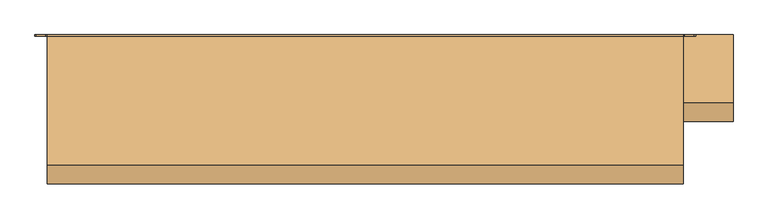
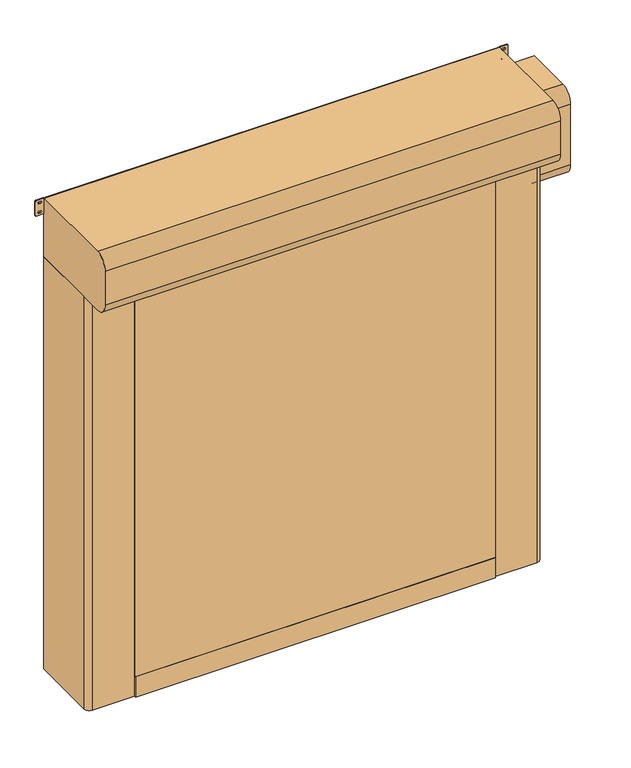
"""IFC4 building model written with IfcOpenShell, lengths in millimetres: door geometry, DO_WPB_Dynamicroll Frigo_Air_BMP : Dynamicroll Frigo2 Air."""

from ifc_helpers import new_model, si_unit, point, frame, frame_2d, origin, origin_with_axes, place, context, project, spatial, polyline, circle_curve, trimmed, segment, composite_curve, outline, extrude, source, transform, mapped, element, save


def door_aceed0af(model_context):
    return source(origin(), model_context, "Body", "SweptSolid", [
        extrude(outline(polyline([(-1012.0, -421.5), (1012.0, -421.5), (1012.0, -428.5), (-1012.0, -428.5), (-1012.0, -421.5)])), frame((0.0, 0.0, 120.0), z_axis=(0.0, 0.0, 1.0), x_axis=(1.0, 0.0, 0.0)), (0.0, 0.0, 1.0), 2505.0),
        extrude(outline(polyline([(-1012.0, -419.5), (1012.0, -419.5), (1012.0, -430.5), (-1012.0, -430.5), (-1012.0, -419.5)])), origin_with_axes(), (0.0, 0.0, 1.0), 120.0),
        extrude(outline(composite_curve([segment(trimmed(circle_curve(frame_2d((1583.3333333, 1171.0)), 6.0), [point((1589.3333333, 1171.0))], [point((1577.3333333, 1171.0))], False, "CARTESIAN"), True, "CONTINUOUS"), segment(polyline([(1577.3333333, 1171.0), (1577.3333333, 1189.0)]), True, "CONTINUOUS"), segment(trimmed(circle_curve(frame_2d((1583.3333333, 1189.0)), 6.0), [point((1577.3333333, 1189.0))], [point((1589.3333333, 1189.0))], False, "CARTESIAN"), True, "CONTINUOUS"), segment(polyline([(1589.3333333, 1189.0), (1589.3333333, 1171.0)]), True, "CONTINUOUS")], self_intersect=False)), frame((0.0, -20.0, 0.0), z_axis=(0.0, 1.0, 0.0), x_axis=(0.0, 0.0, 1.0)), (0.0, 0.0, 1.0), 20.0),
        extrude(outline(composite_curve([segment(trimmed(circle_curve(frame_2d((866.6666667, 1171.0)), 6.0), [point((872.6666667, 1171.0))], [point((860.6666667, 1171.0))], False, "CARTESIAN"), True, "CONTINUOUS"), segment(polyline([(860.6666667, 1171.0), (860.6666667, 1189.0)]), True, "CONTINUOUS"), segment(trimmed(circle_curve(frame_2d((866.6666667, 1189.0)), 6.0), [point((860.6666667, 1189.0))], [point((872.6666667, 1189.0))], False, "CARTESIAN"), True, "CONTINUOUS"), segment(polyline([(872.6666667, 1189.0), (872.6666667, 1171.0)]), True, "CONTINUOUS")], self_intersect=False)), frame((0.0, -20.0, 0.0), z_axis=(0.0, 1.0, 0.0), x_axis=(0.0, 0.0, 1.0)), (0.0, 0.0, 1.0), 20.0),
        extrude(outline(composite_curve([segment(trimmed(circle_curve(frame_2d((2300.0, 1171.0)), 6.0), [point((2306.0, 1171.0))], [point((2294.0, 1171.0))], False, "CARTESIAN"), True, "CONTINUOUS"), segment(polyline([(2294.0, 1171.0), (2294.0, 1189.0)]), True, "CONTINUOUS"), segment(trimmed(circle_curve(frame_2d((2300.0, 1189.0)), 6.0), [point((2294.0, 1189.0))], [point((2306.0, 1189.0))], False, "CARTESIAN"), True, "CONTINUOUS"), segment(polyline([(2306.0, 1189.0), (2306.0, 1171.0)]), True, "CONTINUOUS")], self_intersect=False)), frame((0.0, -20.0, 0.0), z_axis=(0.0, 1.0, 0.0), x_axis=(0.0, 0.0, 1.0)), (0.0, 0.0, 1.0), 20.0),
        extrude(outline(composite_curve([segment(trimmed(circle_curve(frame_2d((150.0, 1171.0)), 6.0), [point((156.0, 1171.0))], [point((144.0, 1171.0))], False, "CARTESIAN"), True, "CONTINUOUS"), segment(polyline([(144.0, 1171.0), (144.0, 1189.0)]), True, "CONTINUOUS"), segment(trimmed(circle_curve(frame_2d((150.0, 1189.0)), 6.0), [point((144.0, 1189.0))], [point((156.0, 1189.0))], False, "CARTESIAN"), True, "CONTINUOUS"), segment(polyline([(156.0, 1189.0), (156.0, 1171.0)]), True, "CONTINUOUS")], self_intersect=False)), frame((0.0, -20.0, 0.0), z_axis=(0.0, 1.0, 0.0), x_axis=(0.0, 0.0, 1.0)), (0.0, 0.0, 1.0), 20.0),
        extrude(outline(composite_curve([segment(polyline([(1589.3333333, -1171.0), (1589.3333333, -1189.0)]), True, "CONTINUOUS"), segment(trimmed(circle_curve(frame_2d((1583.3333333, -1189.0)), 6.0), [point((1589.3333333, -1189.0))], [point((1577.3333333, -1189.0))], False, "CARTESIAN"), True, "CONTINUOUS"), segment(polyline([(1577.3333333, -1189.0), (1577.3333333, -1171.0)]), True, "CONTINUOUS"), segment(trimmed(circle_curve(frame_2d((1583.3333333, -1171.0)), 6.0), [point((1577.3333333, -1171.0))], [point((1589.3333333, -1171.0))], False, "CARTESIAN"), True, "CONTINUOUS")], self_intersect=False)), frame((0.0, -20.0, 0.0), z_axis=(0.0, 1.0, 0.0), x_axis=(0.0, 0.0, 1.0)), (0.0, 0.0, 1.0), 20.0),
        extrude(outline(composite_curve([segment(polyline([(872.6666667, -1171.0), (872.6666667, -1189.0)]), True, "CONTINUOUS"), segment(trimmed(circle_curve(frame_2d((866.6666667, -1189.0)), 6.0), [point((872.6666667, -1189.0))], [point((860.6666667, -1189.0))], False, "CARTESIAN"), True, "CONTINUOUS"), segment(polyline([(860.6666667, -1189.0), (860.6666667, -1171.0)]), True, "CONTINUOUS"), segment(trimmed(circle_curve(frame_2d((866.6666667, -1171.0)), 6.0), [point((860.6666667, -1171.0))], [point((872.6666667, -1171.0))], False, "CARTESIAN"), True, "CONTINUOUS")], self_intersect=False)), frame((0.0, -20.0, 0.0), z_axis=(0.0, 1.0, 0.0), x_axis=(0.0, 0.0, 1.0)), (0.0, 0.0, 1.0), 20.0),
        extrude(outline(composite_curve([segment(polyline([(2306.0, -1171.0), (2306.0, -1189.0)]), True, "CONTINUOUS"), segment(trimmed(circle_curve(frame_2d((2300.0, -1189.0)), 6.0), [point((2306.0, -1189.0))], [point((2294.0, -1189.0))], False, "CARTESIAN"), True, "CONTINUOUS"), segment(polyline([(2294.0, -1189.0), (2294.0, -1171.0)]), True, "CONTINUOUS"), segment(trimmed(circle_curve(frame_2d((2300.0, -1171.0)), 6.0), [point((2294.0, -1171.0))], [point((2306.0, -1171.0))], False, "CARTESIAN"), True, "CONTINUOUS")], self_intersect=False)), frame((0.0, -20.0, 0.0), z_axis=(0.0, 1.0, 0.0), x_axis=(0.0, 0.0, 1.0)), (0.0, 0.0, 1.0), 20.0),
        extrude(outline(composite_curve([segment(polyline([(156.0, -1171.0), (156.0, -1189.0)]), True, "CONTINUOUS"), segment(trimmed(circle_curve(frame_2d((150.0, -1189.0)), 6.0), [point((156.0, -1189.0))], [point((144.0, -1189.0))], False, "CARTESIAN"), True, "CONTINUOUS"), segment(polyline([(144.0, -1189.0), (144.0, -1171.0)]), True, "CONTINUOUS"), segment(trimmed(circle_curve(frame_2d((150.0, -1171.0)), 6.0), [point((144.0, -1171.0))], [point((156.0, -1171.0))], False, "CARTESIAN"), True, "CONTINUOUS")], self_intersect=False)), frame((0.0, -20.0, 0.0), z_axis=(0.0, 1.0, 0.0), x_axis=(0.0, 0.0, 1.0)), (0.0, 0.0, 1.0), 20.0),
        extrude(outline(polyline([(-1012.0, -221.5), (1012.0, -221.5), (1012.0, -228.5), (-1012.0, -228.5), (-1012.0, -221.5)])), frame((0.0, 0.0, 120.0), z_axis=(0.0, 0.0, 1.0), x_axis=(1.0, 0.0, 0.0)), (0.0, 0.0, 1.0), 2505.0),
        extrude(outline(polyline([(-1012.0, -219.5), (1012.0, -219.5), (1012.0, -230.5), (-1012.0, -230.5), (-1012.0, -219.5)])), origin_with_axes(), (0.0, 0.0, 1.0), 120.0),
        extrude(outline(composite_curve([segment(polyline([(-1280.0, 0.0), (-1015.0, 0.0), (-1015.0, -209.2857143), (-1035.0, -215.0), (-1000.0, -215.0), (-1000.0, -221.5), (-1020.0, -221.5), (-1020.0, -228.5), (-1000.0, -228.5), (-1000.0, -235.0), (-1035.0, -235.0), (-1035.0, -250.0), (-1005.0, -250.0), (-1005.0, -420.0), (-1250.0, -420.0)]), True, "CONTINUOUS"), segment(trimmed(circle_curve(frame_2d((-1250.0, -390.0)), 30.0), [point((-1250.0, -420.0))], [point((-1280.0, -390.0))], False, "CARTESIAN"), True, "CONTINUOUS"), segment(polyline([(-1280.0, -390.0), (-1280.0, 0.0)]), True, "CONTINUOUS")], self_intersect=False)), origin_with_axes(), (0.0, 0.0, 1.0), 2450.0),
        extrude(outline(composite_curve([segment(polyline([(1280.0, 0.0), (1280.0, -390.0)]), True, "CONTINUOUS"), segment(trimmed(circle_curve(frame_2d((1250.0, -390.0)), 30.0), [point((1280.0, -390.0))], [point((1250.0, -420.0))], False, "CARTESIAN"), True, "CONTINUOUS"), segment(polyline([(1250.0, -420.0), (1005.0, -420.0), (1005.0, -250.0), (1035.0, -250.0), (1035.0, -235.0), (1000.0, -235.0), (1000.0, -228.5), (1020.0, -228.5), (1020.0, -221.5), (1000.0, -221.5), (1000.0, -215.0), (1035.0, -215.0), (1015.0, -209.2857143), (1015.0, 0.0), (1280.0, 0.0)]), True, "CONTINUOUS")], self_intersect=False)), origin_with_axes(), (0.0, 0.0, 1.0), 2450.0),
        extrude(outline(composite_curve([segment(trimmed(circle_curve(frame_2d((-5.0, 2455.0)), 5.0), [point((0.0, 2455.0))], [point((-5.0, 2450.0))], False, "CARTESIAN"), True, "CONTINUOUS"), segment(polyline([(-5.0, 2450.0), (-525.0, 2450.0)]), True, "CONTINUOUS"), segment(trimmed(circle_curve(frame_2d((-525.0, 2525.0)), 75.0), [point((-525.0, 2450.0))], [point((-600.0, 2525.0))], False, "CARTESIAN"), True, "CONTINUOUS"), segment(polyline([(-600.0, 2525.0), (-600.0, 2725.0)]), True, "CONTINUOUS"), segment(trimmed(circle_curve(frame_2d((-525.0, 2725.0)), 75.0), [point((-600.0, 2725.0))], [point((-525.0, 2800.0))], False, "CARTESIAN"), True, "CONTINUOUS"), segment(polyline([(-525.0, 2800.0), (-5.0, 2800.0)]), True, "CONTINUOUS"), segment(trimmed(circle_curve(frame_2d((-5.0, 2795.0)), 5.0), [point((-5.0, 2800.0))], [point((0.0, 2795.0))], False, "CARTESIAN"), True, "CONTINUOUS"), segment(polyline([(0.0, 2795.0), (0.0, 2455.0)]), True, "CONTINUOUS")], self_intersect=False)), frame((-1280.0, 0.0, 0.0), z_axis=(1.0, 0.0, 0.0), x_axis=(0.0, 1.0, 0.0)), (0.0, 0.0, 1.0), 2560.0),
        extrude(outline(composite_curve([segment(trimmed(circle_curve(frame_2d((2713.75, 1285.75)), 5.75), [point((2713.75, 1280.0))], [point((2708.0, 1285.75))], False, "CARTESIAN"), True, "CONTINUOUS"), segment(polyline([(2708.0, 1285.75), (2708.0, 1323.25)]), True, "CONTINUOUS"), segment(trimmed(circle_curve(frame_2d((2713.75, 1323.25)), 5.75), [point((2708.0, 1323.25))], [point((2713.75, 1329.0))], False, "CARTESIAN"), True, "CONTINUOUS"), segment(polyline([(2713.75, 1329.0), (2794.25, 1329.0)]), True, "CONTINUOUS"), segment(trimmed(circle_curve(frame_2d((2794.25, 1323.25)), 5.75), [point((2794.25, 1329.0))], [point((2800.0, 1323.25))], False, "CARTESIAN"), True, "CONTINUOUS"), segment(polyline([(2800.0, 1323.25), (2800.0, 1285.75)]), True, "CONTINUOUS"), segment(trimmed(circle_curve(frame_2d((2794.25, 1285.75)), 5.75), [point((2800.0, 1285.75))], [point((2794.25, 1280.0))], False, "CARTESIAN"), True, "CONTINUOUS"), segment(polyline([(2794.25, 1280.0), (2713.75, 1280.0)]), True, "CONTINUOUS")], self_intersect=False), holes=[composite_curve([segment(trimmed(circle_curve(frame_2d((2781.5, 1308.75)), 5.75), [point((2787.25, 1308.75))], [point((2775.75, 1308.75))], True, "CARTESIAN"), True, "CONTINUOUS"), segment(polyline([(2775.75, 1308.75), (2775.75, 1300.25)]), True, "CONTINUOUS"), segment(trimmed(circle_curve(frame_2d((2781.5, 1300.25)), 5.75), [point((2775.75, 1300.25))], [point((2787.25, 1300.25))], True, "CARTESIAN"), True, "CONTINUOUS"), segment(polyline([(2787.25, 1300.25), (2787.25, 1308.75)]), True, "CONTINUOUS")], self_intersect=False), composite_curve([segment(trimmed(circle_curve(frame_2d((2726.5, 1308.75)), 5.75), [point((2732.25, 1308.75))], [point((2720.75, 1308.75))], True, "CARTESIAN"), True, "CONTINUOUS"), segment(polyline([(2720.75, 1308.75), (2720.75, 1300.25)]), True, "CONTINUOUS"), segment(trimmed(circle_curve(frame_2d((2726.5, 1300.25)), 5.75), [point((2720.75, 1300.25))], [point((2732.25, 1300.25))], True, "CARTESIAN"), True, "CONTINUOUS"), segment(polyline([(2732.25, 1300.25), (2732.25, 1308.75)]), True, "CONTINUOUS")], self_intersect=False)]), frame((0.0, -5.0, 0.0), z_axis=(0.0, 1.0, 0.0), x_axis=(0.0, 0.0, 1.0)), (0.0, 0.0, 1.0), 5.0),
        extrude(outline(composite_curve([segment(trimmed(circle_curve(frame_2d((2713.75, -1323.25)), 5.75), [point((2713.75, -1329.0))], [point((2708.0, -1323.25))], False, "CARTESIAN"), True, "CONTINUOUS"), segment(polyline([(2708.0, -1323.25), (2708.0, -1285.75)]), True, "CONTINUOUS"), segment(trimmed(circle_curve(frame_2d((2713.75, -1285.75)), 5.75), [point((2708.0, -1285.75))], [point((2713.75, -1280.0))], False, "CARTESIAN"), True, "CONTINUOUS"), segment(polyline([(2713.75, -1280.0), (2794.25, -1280.0)]), True, "CONTINUOUS"), segment(trimmed(circle_curve(frame_2d((2794.25, -1285.75)), 5.75), [point((2794.25, -1280.0))], [point((2800.0, -1285.75))], False, "CARTESIAN"), True, "CONTINUOUS"), segment(polyline([(2800.0, -1285.75), (2800.0, -1323.25)]), True, "CONTINUOUS"), segment(trimmed(circle_curve(frame_2d((2794.25, -1323.25)), 5.75), [point((2800.0, -1323.25))], [point((2794.25, -1329.0))], False, "CARTESIAN"), True, "CONTINUOUS"), segment(polyline([(2794.25, -1329.0), (2713.75, -1329.0)]), True, "CONTINUOUS")], self_intersect=False), holes=[composite_curve([segment(trimmed(circle_curve(frame_2d((2781.5, -1300.25)), 5.75), [point((2787.25, -1300.25))], [point((2775.75, -1300.25))], True, "CARTESIAN"), True, "CONTINUOUS"), segment(polyline([(2775.75, -1300.25), (2775.75, -1308.75)]), True, "CONTINUOUS"), segment(trimmed(circle_curve(frame_2d((2781.5, -1308.75)), 5.75), [point((2775.75, -1308.75))], [point((2787.25, -1308.75))], True, "CARTESIAN"), True, "CONTINUOUS"), segment(polyline([(2787.25, -1308.75), (2787.25, -1300.25)]), True, "CONTINUOUS")], self_intersect=False), composite_curve([segment(trimmed(circle_curve(frame_2d((2726.5, -1300.25)), 5.75), [point((2732.25, -1300.25))], [point((2720.75, -1300.25))], True, "CARTESIAN"), True, "CONTINUOUS"), segment(polyline([(2720.75, -1300.25), (2720.75, -1308.75)]), True, "CONTINUOUS"), segment(trimmed(circle_curve(frame_2d((2726.5, -1308.75)), 5.75), [point((2720.75, -1308.75))], [point((2732.25, -1308.75))], True, "CARTESIAN"), True, "CONTINUOUS"), segment(polyline([(2732.25, -1308.75), (2732.25, -1300.25)]), True, "CONTINUOUS")], self_intersect=False)]), frame((0.0, -5.0, 0.0), z_axis=(0.0, 1.0, 0.0), x_axis=(0.0, 0.0, 1.0)), (0.0, 0.0, 1.0), 5.0),
        extrude(outline(composite_curve([segment(polyline([(0.0, 2675.0), (0.0, 2165.0), (-275.0, 2165.0)]), True, "CONTINUOUS"), segment(trimmed(circle_curve(frame_2d((-275.0, 2240.0)), 75.0), [point((-275.0, 2165.0))], [point((-350.0, 2240.0))], False, "CARTESIAN"), True, "CONTINUOUS"), segment(polyline([(-350.0, 2240.0), (-350.0, 2600.0)]), True, "CONTINUOUS"), segment(trimmed(circle_curve(frame_2d((-275.0, 2600.0)), 75.0), [point((-350.0, 2600.0))], [point((-275.0, 2675.0))], False, "CARTESIAN"), True, "CONTINUOUS"), segment(polyline([(-275.0, 2675.0), (0.0, 2675.0)]), True, "CONTINUOUS")], self_intersect=False)), frame((1280.0, 0.0, 0.0), z_axis=(1.0, 0.0, 0.0), x_axis=(0.0, 1.0, 0.0)), (0.0, 0.0, 1.0), 200.0),
    ])


if __name__ == "__main__":
    model = new_model("IFC4")
    model_context = context("Model", 3, world=origin())
    ifc_project = project(units=[si_unit("LENGTHUNIT", "METRE", prefix="MILLI")], contexts=[model_context])
    site = spatial("IfcSite", under=ifc_project)
    building = spatial("IfcBuilding", under=site)
    placement = place(None, origin())
    door_shape = door_aceed0af(model_context)
    element("IfcDoor", 1, ObjectType="DO_WPB_Dynamicroll Frigo_Air_BMP : Dynamicroll Frigo2 Air", at=placement, inside=building, context=model_context, shape_type="MappedRepresentation", body=[
        mapped(door_shape, transform((0.0, 0.0, 0.0), x_axis=(1.0, 0.0, 0.0), y_axis=(0.0, 1.0, 0.0), z_axis=(0.0, 0.0, 1.0))),
    ])
    save(model, "model.ifc")
